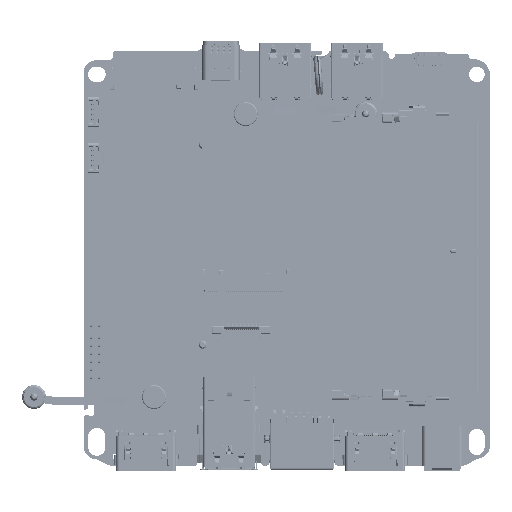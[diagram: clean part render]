
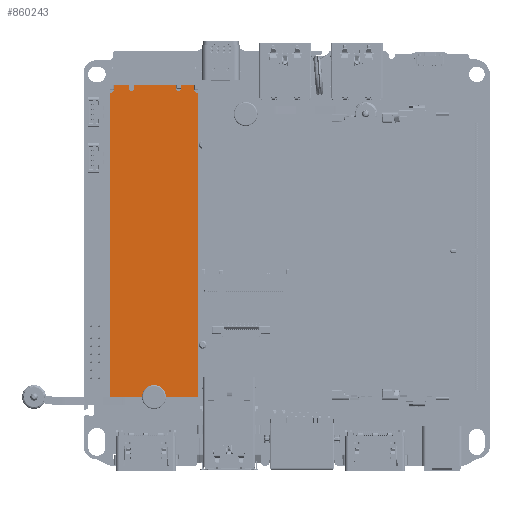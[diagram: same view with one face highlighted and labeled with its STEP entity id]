
A CAD part, front view. The second image highlights one B-rep face of the part: STEP entity #860243.
In plain terms, the highlighted planar face has unit normal (0, -1, 0) as drawn and (0, 1, 0) by its records, which use the part's own axes.
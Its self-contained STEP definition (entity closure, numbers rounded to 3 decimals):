
#859788=CARTESIAN_POINT('',(0.,0.4,-80.));
#859789=DIRECTION('',(0.,1.,0.));
#859790=DIRECTION('',(-1.,0.,0.));
#859791=AXIS2_PLACEMENT_3D('',#859788,#859789,#859790);
#859793=DIRECTION('',(-1.,0.,0.));
#859794=VECTOR('',#859793,9.25);
#859795=CARTESIAN_POINT('',(11.,0.4,-80.));
#859796=LINE('',#859795,#859794);
#859797=DIRECTION('',(0.,0.,-1.));
#859798=VECTOR('',#859797,76.);
#859799=CARTESIAN_POINT('',(11.,0.4,-4.));
#859800=LINE('',#859799,#859798);
#859801=DIRECTION('',(-1.,0.,0.));
#859802=VECTOR('',#859801,0.075);
#859803=CARTESIAN_POINT('',(11.,0.4,-4.));
#859804=LINE('',#859803,#859802);
#859805=CARTESIAN_POINT('',(10.925,0.4,-3.));
#859806=DIRECTION('',(0.,1.,0.));
#859807=DIRECTION('',(0.,0.,-1.));
#859808=AXIS2_PLACEMENT_3D('',#859805,#859806,#859807);
#859810=DIRECTION('',(0.,0.,-1.));
#859811=VECTOR('',#859810,3.);
#859812=CARTESIAN_POINT('',(9.925,0.4,0.));
#859813=LINE('',#859812,#859811);
#859814=DIRECTION('',(1.,0.,0.));
#859815=VECTOR('',#859814,3.7);
#859816=CARTESIAN_POINT('',(6.225,0.4,0.));
#859817=LINE('',#859816,#859815);
#859818=DIRECTION('',(0.,0.,-1.));
#859819=VECTOR('',#859818,2.9);
#859820=CARTESIAN_POINT('',(6.225,0.4,0.));
#859821=LINE('',#859820,#859819);
#859822=CARTESIAN_POINT('',(5.625,0.4,-2.9));
#859823=DIRECTION('',(0.,1.,0.));
#859824=DIRECTION('',(1.,0.,0.));
#859825=AXIS2_PLACEMENT_3D('',#859822,#859823,#859824);
#859827=DIRECTION('',(0.,0.,-1.));
#859828=VECTOR('',#859827,2.9);
#859829=CARTESIAN_POINT('',(5.025,0.4,0.));
#859830=LINE('',#859829,#859828);
#859831=DIRECTION('',(1.,0.,0.));
#859832=VECTOR('',#859831,10.55);
#859833=CARTESIAN_POINT('',(-5.525,0.4,0.));
#859834=LINE('',#859833,#859832);
#859835=DIRECTION('',(0.,0.,-1.));
#859836=VECTOR('',#859835,2.9);
#859837=CARTESIAN_POINT('',(-5.525,0.4,0.));
#859838=LINE('',#859837,#859836);
#859839=CARTESIAN_POINT('',(-6.125,0.4,-2.9));
#859840=DIRECTION('',(0.,1.,0.));
#859841=DIRECTION('',(1.,0.,0.));
#859842=AXIS2_PLACEMENT_3D('',#859839,#859840,#859841);
#859844=DIRECTION('',(0.,0.,-1.));
#859845=VECTOR('',#859844,2.9);
#859846=CARTESIAN_POINT('',(-6.725,0.4,0.));
#859847=LINE('',#859846,#859845);
#859848=DIRECTION('',(1.,0.,0.));
#859849=VECTOR('',#859848,3.2);
#859850=CARTESIAN_POINT('',(-9.925,0.4,0.));
#859851=LINE('',#859850,#859849);
#859852=DIRECTION('',(0.,0.,-1.));
#859853=VECTOR('',#859852,3.);
#859854=CARTESIAN_POINT('',(-9.925,0.4,0.));
#859855=LINE('',#859854,#859853);
#859856=CARTESIAN_POINT('',(-10.925,0.4,-3.));
#859857=DIRECTION('',(0.,1.,0.));
#859858=DIRECTION('',(1.,0.,0.));
#859859=AXIS2_PLACEMENT_3D('',#859856,#859857,#859858);
#859861=DIRECTION('',(1.,0.,0.));
#859862=VECTOR('',#859861,0.075);
#859863=CARTESIAN_POINT('',(-11.,0.4,-4.));
#859864=LINE('',#859863,#859862);
#859865=DIRECTION('',(0.,0.,1.));
#859866=VECTOR('',#859865,76.);
#859867=CARTESIAN_POINT('',(-11.,0.4,-80.));
#859868=LINE('',#859867,#859866);
#859869=DIRECTION('',(-1.,0.,0.));
#859870=VECTOR('',#859869,9.25);
#859871=CARTESIAN_POINT('',(-1.75,0.4,-80.));
#859872=LINE('',#859871,#859870);
#859898=CARTESIAN_POINT('',(11.,0.4,-80.));
#859900=VERTEX_POINT('',#859898);
#859902=CARTESIAN_POINT('',(-11.,0.4,-80.));
#859904=VERTEX_POINT('',#859902);
#859941=CARTESIAN_POINT('',(-1.75,0.4,-80.));
#859942=CARTESIAN_POINT('',(1.75,0.4,-80.));
#859943=VERTEX_POINT('',#859941);
#859944=VERTEX_POINT('',#859942);
#859945=CARTESIAN_POINT('',(11.,0.4,-4.));
#859946=CARTESIAN_POINT('',(10.925,0.4,-4.));
#859947=VERTEX_POINT('',#859945);
#859948=VERTEX_POINT('',#859946);
#859949=CARTESIAN_POINT('',(9.925,0.4,-3.));
#859950=VERTEX_POINT('',#859949);
#859951=CARTESIAN_POINT('',(9.925,0.4,0.));
#859952=VERTEX_POINT('',#859951);
#859953=CARTESIAN_POINT('',(-9.925,0.4,0.));
#859954=CARTESIAN_POINT('',(-9.925,0.4,-3.));
#859955=VERTEX_POINT('',#859953);
#859956=VERTEX_POINT('',#859954);
#859957=CARTESIAN_POINT('',(-10.925,0.4,-4.));
#859958=VERTEX_POINT('',#859957);
#859959=CARTESIAN_POINT('',(-11.,0.4,-4.));
#859960=VERTEX_POINT('',#859959);
#859961=CARTESIAN_POINT('',(6.225,0.4,-2.9));
#859962=CARTESIAN_POINT('',(5.025,0.4,-2.9));
#859963=VERTEX_POINT('',#859961);
#859964=VERTEX_POINT('',#859962);
#859965=CARTESIAN_POINT('',(5.025,0.4,0.));
#859966=VERTEX_POINT('',#859965);
#859967=CARTESIAN_POINT('',(6.225,0.4,0.));
#859968=VERTEX_POINT('',#859967);
#859969=CARTESIAN_POINT('',(-5.525,0.4,-2.9));
#859970=CARTESIAN_POINT('',(-6.725,0.4,-2.9));
#859971=VERTEX_POINT('',#859969);
#859972=VERTEX_POINT('',#859970);
#859973=CARTESIAN_POINT('',(-6.725,0.4,0.));
#859974=VERTEX_POINT('',#859973);
#859975=CARTESIAN_POINT('',(-5.525,0.4,0.));
#859976=VERTEX_POINT('',#859975);
#860209=CARTESIAN_POINT('',(0.,0.4,0.));
#860210=DIRECTION('',(0.,1.,0.));
#860211=DIRECTION('',(1.,0.,0.));
#860212=AXIS2_PLACEMENT_3D('',#860209,#860210,#860211);
#860213=PLANE('',#860212);
#860214=ORIENTED_EDGE('',*,*,#860033,.T.);
#860215=ORIENTED_EDGE('',*,*,#860049,.F.);
#860216=ORIENTED_EDGE('',*,*,#860075,.F.);
#860217=ORIENTED_EDGE('',*,*,#860090,.T.);
#860218=ORIENTED_EDGE('',*,*,#860104,.T.);
#860219=ORIENTED_EDGE('',*,*,#860118,.F.);
#860220=ORIENTED_EDGE('',*,*,#860133,.F.);
#860221=ORIENTED_EDGE('',*,*,#860176,.T.);
#860222=ORIENTED_EDGE('',*,*,#860190,.T.);
#860223=ORIENTED_EDGE('',*,*,#860203,.F.);
#860224=ORIENTED_EDGE('',*,*,#860163,.F.);
#860226=ORIENTED_EDGE('',*,*,#860225,.T.);
#860228=ORIENTED_EDGE('',*,*,#860227,.T.);
#860230=ORIENTED_EDGE('',*,*,#860229,.F.);
#860231=ORIENTED_EDGE('',*,*,#860145,.F.);
#860233=ORIENTED_EDGE('',*,*,#860232,.T.);
#860235=ORIENTED_EDGE('',*,*,#860234,.T.);
#860237=ORIENTED_EDGE('',*,*,#860236,.F.);
#860239=ORIENTED_EDGE('',*,*,#860238,.F.);
#860240=ORIENTED_EDGE('',*,*,#860060,.F.);
#860241=EDGE_LOOP('',(#860214,#860215,#860216,#860217,#860218,#860219,#860220,
#860221,#860222,#860223,#860224,#860226,#860228,#860230,#860231,#860233,#860235,
#860237,#860239,#860240));
#860242=FACE_OUTER_BOUND('',#860241,.F.);
#859792=CIRCLE('',#859791,1.75);
#859809=CIRCLE('',#859808,1.);
#859826=CIRCLE('',#859825,0.6);
#859843=CIRCLE('',#859842,0.6);
#859860=CIRCLE('',#859859,1.);
#860033=EDGE_CURVE('',#859943,#859944,#859792,.T.);
#860049=EDGE_CURVE('',#859900,#859944,#859796,.T.);
#860060=EDGE_CURVE('',#859943,#859904,#859872,.T.);
#860075=EDGE_CURVE('',#859947,#859900,#859800,.T.);
#860090=EDGE_CURVE('',#859947,#859948,#859804,.T.);
#860104=EDGE_CURVE('',#859948,#859950,#859809,.T.);
#860118=EDGE_CURVE('',#859952,#859950,#859813,.T.);
#860133=EDGE_CURVE('',#859968,#859952,#859817,.T.);
#860145=EDGE_CURVE('',#859955,#859974,#859851,.T.);
#860163=EDGE_CURVE('',#859976,#859966,#859834,.T.);
#860176=EDGE_CURVE('',#859968,#859963,#859821,.T.);
#860190=EDGE_CURVE('',#859963,#859964,#859826,.T.);
#860203=EDGE_CURVE('',#859966,#859964,#859830,.T.);
#860225=EDGE_CURVE('',#859976,#859971,#859838,.T.);
#860227=EDGE_CURVE('',#859971,#859972,#859843,.T.);
#860229=EDGE_CURVE('',#859974,#859972,#859847,.T.);
#860232=EDGE_CURVE('',#859955,#859956,#859855,.T.);
#860234=EDGE_CURVE('',#859956,#859958,#859860,.T.);
#860236=EDGE_CURVE('',#859960,#859958,#859864,.T.);
#860238=EDGE_CURVE('',#859904,#859960,#859868,.T.);
#860243=ADVANCED_FACE('',(#860242),#860213,.T.);
